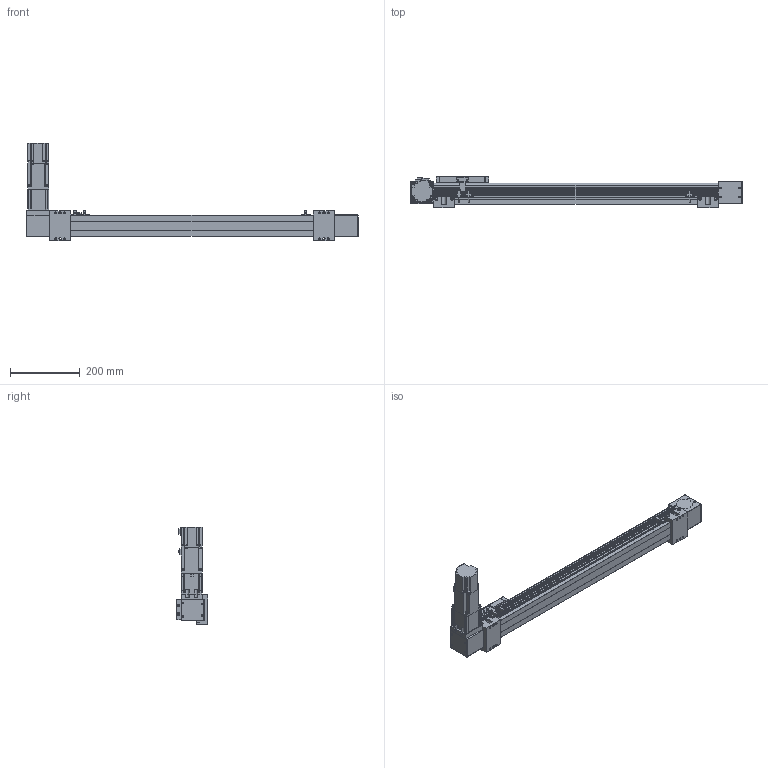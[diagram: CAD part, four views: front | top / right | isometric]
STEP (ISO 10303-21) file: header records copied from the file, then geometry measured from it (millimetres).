
FILE_DESCRIPTION(/* description */ ('STEP AP203'),/* implementation_level */ '2;1');
FILE_NAME(/* name */ 'SK60-P13-S650-BL-T40-C1-N(0)',/* time_stamp */ '2023-04-06T03:36:03+02:00',/* author */ ('License CC BY-ND 4.0'),/* organization */ ('CADENAS'),/* preprocessor_version */ 'ST-DEVELOPER v19.3',/* originating_system */ 'PARTsolutions',/* authorisation */ ' ');
FILE_SCHEMA (('CONFIG_CONTROL_DESIGN'));
Length unit declared in the file: millimetre
Products named in the file (11): SK60-P13-S650-BL-T40-C1-N(0); PSC140-sensor; SK60-S450_seat; SK60-S450-BL-C1_slider; SK60_body3; SK60_body6; SK60-BL_body2; T40-p1; SK60_body5; SK60_body4; SK60-S650-BL-C1_body
Assembly tree (17 placements, depth 2):
  SK60-P13-S650-BL-T40-C1-N(0)
    PSC140-sensor  x3
    SK60-S450_seat  x2
    SK60-S450-BL-C1_slider
    SK60_body3  x3
    SK60_body6  x2
    SK60-BL_body2  x2
    T40-p1
    SK60_body5
    SK60_body4
    SK60-S650-BL-C1_body
Bounding box: 950 x 90 x 278.2 mm (x, y, z)
Volume: 3846903.6 mm3; surface area: 551018.8 mm2
Topology: 17 solids, 21 shells, 834 faces, 2109 edges, 1394 vertices
Faces by surface type: plane 544, cylinder 266, cone 22, torus 2
Full cylindrical faces by diameter (mm): 2.8 x3, 3.3 x4, 4.2 x8, 4.5 x26, 4.6 x3, 4.917 x16, 5 x2, 5.478 x4, 5.5 x19, 6.5 x4, 8 x4, 8.5 x4, 9.988 x4, 10 x8, 13.556 x1, 14 x1, 14.586 x1, 19.692 x1, 38.432 x2, 43 x1, 44 x3, 47 x2, 50 x2
Entity records: 19371 total; most frequent: DIRECTION 3292, CARTESIAN_POINT 3289, ORIENTED_EDGE 3050, EDGE_CURVE 1525, AXIS2_PLACEMENT_3D 1100, LINE 1092, VECTOR 1092, VERTEX_POINT 1077
